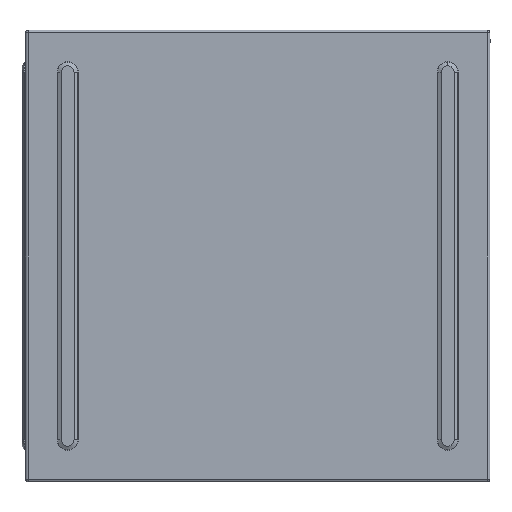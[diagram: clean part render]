
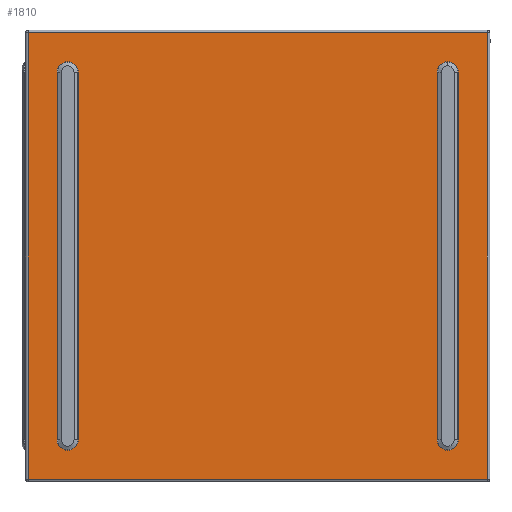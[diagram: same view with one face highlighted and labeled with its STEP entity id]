
A CAD part, front view. The second image highlights one B-rep face of the part: STEP entity #1810.
In plain terms, the highlighted planar face has unit normal (0, -1, 0) as drawn and (0, 0, -1) by its records, which use the part's own axes.
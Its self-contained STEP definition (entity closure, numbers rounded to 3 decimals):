
#1280 = EDGE_CURVE ( 'NONE', #27568, #4477, #9911, .T. ) ;
#1284 = ORIENTED_EDGE ( 'NONE', *, *, #1280, .F. ) ;
#1391 = VERTEX_POINT ( 'NONE', #10096 ) ;
#1653 = EDGE_CURVE ( 'NONE', #4477, #1391, #10742, .T. ) ;
#1742 = ORIENTED_EDGE ( 'NONE', *, *, #1653, .F. ) ;
#1810 = ADVANCED_FACE ( 'NONE', ( #11024, #11019, #11018 ), #11017, .F. ) ;
#2265 = ORIENTED_EDGE ( 'NONE', *, *, #19285, .F. ) ;
#2295 = ORIENTED_EDGE ( 'NONE', *, *, #19359, .F. ) ;
#2377 = ORIENTED_EDGE ( 'NONE', *, *, #19318, .F. ) ;
#2382 = ORIENTED_EDGE ( 'NONE', *, *, #19384, .F. ) ;
#2869 = EDGE_LOOP ( 'NONE', ( #2382, #2377, #2265, #2295 ) ) ;
#2891 = ORIENTED_EDGE ( 'NONE', *, *, #19407, .F. ) ;
#2901 = ORIENTED_EDGE ( 'NONE', *, *, #19443, .F. ) ;
#2925 = ORIENTED_EDGE ( 'NONE', *, *, #19466, .F. ) ;
#3031 = ORIENTED_EDGE ( 'NONE', *, *, #19481, .F. ) ;
#4477 = VERTEX_POINT ( 'NONE', #15521 ) ;
#8448 = ORIENTED_EDGE ( 'NONE', *, *, #8540, .F. ) ;
#8540 = EDGE_CURVE ( 'NONE', #1391, #27561, #22738, .T. ) ;
#8549 = ORIENTED_EDGE ( 'NONE', *, *, #27563, .F. ) ;
#9908 = DIRECTION ( 'NONE',  ( 0., -1., 0. ) ) ;
#9909 = VECTOR ( 'NONE', #9908, 1000. ) ;
#9910 = CARTESIAN_POINT ( 'NONE',  ( 14.5, 1070., -15. ) ) ;
#9911 = LINE ( 'NONE', #9910, #9909 ) ;
#10096 = CARTESIAN_POINT ( 'NONE',  ( 1101.5, 6.5, -15. ) ) ;
#10739 = DIRECTION ( 'NONE',  ( 1., 0., 0. ) ) ;
#10740 = VECTOR ( 'NONE', #10739, 1000. ) ;
#10741 = CARTESIAN_POINT ( 'NONE',  ( 8., 6.5, -15. ) ) ;
#10742 = LINE ( 'NONE', #10741, #10740 ) ;
#11012 = DIRECTION ( 'NONE',  ( 1., 0., 0. ) ) ;
#11013 = DIRECTION ( 'NONE',  ( 0., 0., 1. ) ) ;
#11014 = CARTESIAN_POINT ( 'NONE',  ( 8., 1070., -15. ) ) ;
#11016 = AXIS2_PLACEMENT_3D ( 'NONE', #11014, #11013, #11012 ) ;
#11017 = PLANE ( 'NONE',  #11016 ) ;
#11018 = FACE_BOUND ( 'NONE', #2869, .T. ) ;
#11019 = FACE_BOUND ( 'NONE', #19432, .T. ) ;
#11024 = FACE_OUTER_BOUND ( 'NONE', #19328, .T. ) ;
#15521 = CARTESIAN_POINT ( 'NONE',  ( 14.5, 6.5, -15. ) ) ;
#19186 = VERTEX_POINT ( 'NONE', #25582 ) ;
#19224 = VERTEX_POINT ( 'NONE', #25738 ) ;
#19272 = VERTEX_POINT ( 'NONE', #25932 ) ;
#19285 = EDGE_CURVE ( 'NONE', #19288, #19272, #25991, .T. ) ;
#19288 = VERTEX_POINT ( 'NONE', #25968 ) ;
#19318 = EDGE_CURVE ( 'NONE', #19272, #19186, #26002, .T. ) ;
#19328 = EDGE_LOOP ( 'NONE', ( #1742, #1284, #8549, #8448 ) ) ;
#19335 = VERTEX_POINT ( 'NONE', #26052 ) ;
#19359 = EDGE_CURVE ( 'NONE', #19224, #19288, #26101, .T. ) ;
#19384 = EDGE_CURVE ( 'NONE', #19186, #19224, #26111, .T. ) ;
#19406 = VERTEX_POINT ( 'NONE', #26138 ) ;
#19407 = EDGE_CURVE ( 'NONE', #19335, #19406, #26136, .T. ) ;
#19432 = EDGE_LOOP ( 'NONE', ( #3031, #2901, #2891, #2925 ) ) ;
#19443 = EDGE_CURVE ( 'NONE', #19406, #19447, #26242, .T. ) ;
#19447 = VERTEX_POINT ( 'NONE', #26306 ) ;
#19466 = EDGE_CURVE ( 'NONE', #19468, #19335, #26293, .T. ) ;
#19468 = VERTEX_POINT ( 'NONE', #26289 ) ;
#19481 = EDGE_CURVE ( 'NONE', #19447, #19468, #26324, .T. ) ;
#22732 = DIRECTION ( 'NONE',  ( 0., 1., 0. ) ) ;
#22733 = VECTOR ( 'NONE', #22732, 1000. ) ;
#22734 = CARTESIAN_POINT ( 'NONE',  ( 1101.5, 535., -15. ) ) ;
#22738 = LINE ( 'NONE', #22734, #22733 ) ;
#25582 = CARTESIAN_POINT ( 'NONE',  ( 983., 970., -15. ) ) ;
#25738 = CARTESIAN_POINT ( 'NONE',  ( 1033., 970., -15. ) ) ;
#25932 = CARTESIAN_POINT ( 'NONE',  ( 983., 100., -15. ) ) ;
#25968 = CARTESIAN_POINT ( 'NONE',  ( 1033., 100., -15. ) ) ;
#25972 = DIRECTION ( 'NONE',  ( 1., 0., 0. ) ) ;
#25988 = DIRECTION ( 'NONE',  ( 0., 0., -1. ) ) ;
#25989 = CARTESIAN_POINT ( 'NONE',  ( 1008., 100., -15. ) ) ;
#25990 = AXIS2_PLACEMENT_3D ( 'NONE', #25989, #25988, #25972 ) ;
#25991 = CIRCLE ( 'NONE', #25990, 25. ) ;
#26001 = CARTESIAN_POINT ( 'NONE',  ( 983., 1070., -15. ) ) ;
#26002 = LINE ( 'NONE', #26001, #26062 ) ;
#26052 = CARTESIAN_POINT ( 'NONE',  ( 133., 100., -15. ) ) ;
#26061 = DIRECTION ( 'NONE',  ( 0., 1., 0. ) ) ;
#26062 = VECTOR ( 'NONE', #26061, 1000. ) ;
#26081 = DIRECTION ( 'NONE',  ( 0., -1., 0. ) ) ;
#26082 = VECTOR ( 'NONE', #26081, 1000. ) ;
#26083 = CARTESIAN_POINT ( 'NONE',  ( 1033., 1070., -15. ) ) ;
#26101 = LINE ( 'NONE', #26083, #26082 ) ;
#26107 = DIRECTION ( 'NONE',  ( 1., 0., 0. ) ) ;
#26108 = DIRECTION ( 'NONE',  ( 0., 0., -1. ) ) ;
#26109 = CARTESIAN_POINT ( 'NONE',  ( 1008., 970., -15. ) ) ;
#26110 = AXIS2_PLACEMENT_3D ( 'NONE', #26109, #26108, #26107 ) ;
#26111 = CIRCLE ( 'NONE', #26110, 25. ) ;
#26133 = DIRECTION ( 'NONE',  ( 0., 0., -1. ) ) ;
#26134 = CARTESIAN_POINT ( 'NONE',  ( 108., 100., -15. ) ) ;
#26135 = AXIS2_PLACEMENT_3D ( 'NONE', #26134, #26133, #26194 ) ;
#26136 = CIRCLE ( 'NONE', #26135, 25. ) ;
#26138 = CARTESIAN_POINT ( 'NONE',  ( 83., 100., -15. ) ) ;
#26194 = DIRECTION ( 'NONE',  ( 1., 0., 0. ) ) ;
#26239 = DIRECTION ( 'NONE',  ( 0., 1., 0. ) ) ;
#26240 = VECTOR ( 'NONE', #26239, 1000. ) ;
#26241 = CARTESIAN_POINT ( 'NONE',  ( 83., 1070., -15. ) ) ;
#26242 = LINE ( 'NONE', #26241, #26240 ) ;
#26289 = CARTESIAN_POINT ( 'NONE',  ( 133., 970., -15. ) ) ;
#26290 = DIRECTION ( 'NONE',  ( 0., -1., 0. ) ) ;
#26291 = VECTOR ( 'NONE', #26290, 1000. ) ;
#26292 = CARTESIAN_POINT ( 'NONE',  ( 133., 1070., -15. ) ) ;
#26293 = LINE ( 'NONE', #26292, #26291 ) ;
#26306 = CARTESIAN_POINT ( 'NONE',  ( 83., 970., -15. ) ) ;
#26320 = DIRECTION ( 'NONE',  ( 1., 0., 0. ) ) ;
#26321 = DIRECTION ( 'NONE',  ( 0., 0., -1. ) ) ;
#26322 = CARTESIAN_POINT ( 'NONE',  ( 108., 970., -15. ) ) ;
#26323 = AXIS2_PLACEMENT_3D ( 'NONE', #26322, #26321, #26320 ) ;
#26324 = CIRCLE ( 'NONE', #26323, 25. ) ;
#27028 = CARTESIAN_POINT ( 'NONE',  ( 14.5, 1063.5, -15. ) ) ;
#27035 = DIRECTION ( 'NONE',  ( -1., 0., 0. ) ) ;
#27036 = VECTOR ( 'NONE', #27035, 1000. ) ;
#27037 = CARTESIAN_POINT ( 'NONE',  ( 8., 1063.5, -15. ) ) ;
#27038 = LINE ( 'NONE', #27037, #27036 ) ;
#27044 = CARTESIAN_POINT ( 'NONE',  ( 1101.5, 1063.5, -15. ) ) ;
#27561 = VERTEX_POINT ( 'NONE', #27044 ) ;
#27563 = EDGE_CURVE ( 'NONE', #27561, #27568, #27038, .T. ) ;
#27568 = VERTEX_POINT ( 'NONE', #27028 ) ;
